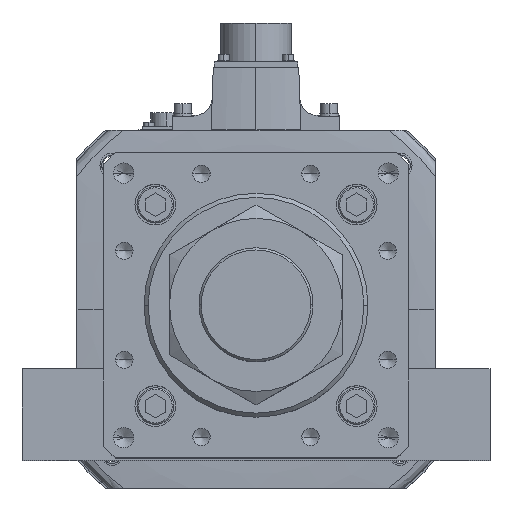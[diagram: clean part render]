
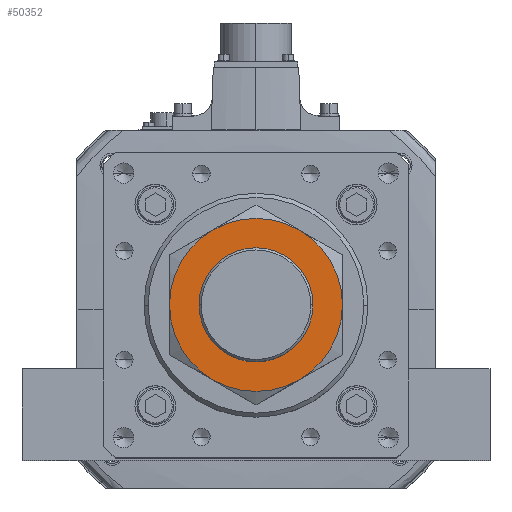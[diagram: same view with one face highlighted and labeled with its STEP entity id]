
A CAD part, top view. The second image highlights one B-rep face of the part: STEP entity #50352.
In plain terms, the highlighted planar face has unit normal (0, 0, 1).
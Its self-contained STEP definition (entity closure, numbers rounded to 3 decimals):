
#1339 = FACE_BOUND ( 'NONE', #45484, .T. ) ;
#3358 = CARTESIAN_POINT ( 'NONE',  ( 0., 0., 34. ) ) ;
#4077 = DIRECTION ( 'NONE',  ( 0., 0., -1. ) ) ;
#4602 = PLANE ( 'NONE',  #51926 ) ;
#4980 = CARTESIAN_POINT ( 'NONE',  ( 21.25, -36.806, 34. ) ) ;
#5135 = DIRECTION ( 'NONE',  ( 0., 0., -1. ) ) ;
#6439 = ORIENTED_EDGE ( 'NONE', *, *, #25329, .F. ) ;
#7823 = CARTESIAN_POINT ( 'NONE',  ( 0., 0., 34. ) ) ;
#8056 = AXIS2_PLACEMENT_3D ( 'NONE', #7823, #34656, #43205 ) ;
#8571 = CIRCLE ( 'NONE', #46370, 42.5 ) ;
#9598 = DIRECTION ( 'NONE',  ( 1., 0., 0. ) ) ;
#10717 = EDGE_CURVE ( 'NONE', #33187, #54882, #48305, .T. ) ;
#12635 = DIRECTION ( 'NONE',  ( 1., 0., 0. ) ) ;
#13040 = DIRECTION ( 'NONE',  ( 1., 0., 0. ) ) ;
#14391 = AXIS2_PLACEMENT_3D ( 'NONE', #35362, #17859, #12635 ) ;
#14409 = DIRECTION ( 'NONE',  ( 0., 0., -1. ) ) ;
#16637 = CIRCLE ( 'NONE', #49663, 28. ) ;
#17334 = DIRECTION ( 'NONE',  ( 1., 0., 0. ) ) ;
#17662 = CARTESIAN_POINT ( 'NONE',  ( -42.5, 0., 34. ) ) ;
#17678 = ORIENTED_EDGE ( 'NONE', *, *, #27622, .F. ) ;
#17859 = DIRECTION ( 'NONE',  ( 0., 0., -1. ) ) ;
#18725 = EDGE_LOOP ( 'NONE', ( #35784, #6439, #50998, #22115, #32984, #17678 ) ) ;
#21677 = DIRECTION ( 'NONE',  ( 0., 0., -1. ) ) ;
#21863 = VERTEX_POINT ( 'NONE', #51144 ) ;
#22012 = AXIS2_PLACEMENT_3D ( 'NONE', #3358, #52158, #43406 ) ;
#22115 = ORIENTED_EDGE ( 'NONE', *, *, #43827, .F. ) ;
#22151 = EDGE_CURVE ( 'NONE', #30136, #47979, #8571, .T. ) ;
#22327 = CARTESIAN_POINT ( 'NONE',  ( 0., 0., 34. ) ) ;
#22779 = DIRECTION ( 'NONE',  ( 1., 0., 0. ) ) ;
#23901 = CARTESIAN_POINT ( 'NONE',  ( -21.25, 36.806, 34. ) ) ;
#25144 = CARTESIAN_POINT ( 'NONE',  ( -28., 0., 34. ) ) ;
#25329 = EDGE_CURVE ( 'NONE', #21863, #33187, #49118, .T. ) ;
#25971 = CARTESIAN_POINT ( 'NONE',  ( 0., 0., 34. ) ) ;
#26306 = DIRECTION ( 'NONE',  ( 0., 0., 1. ) ) ;
#27622 = EDGE_CURVE ( 'NONE', #54882, #30136, #44200, .T. ) ;
#28056 = AXIS2_PLACEMENT_3D ( 'NONE', #25971, #21677, #17334 ) ;
#28580 = CARTESIAN_POINT ( 'NONE',  ( -21.25, -36.806, 34. ) ) ;
#30136 = VERTEX_POINT ( 'NONE', #28580 ) ;
#32984 = ORIENTED_EDGE ( 'NONE', *, *, #22151, .F. ) ;
#33054 = CIRCLE ( 'NONE', #22012, 28. ) ;
#33187 = VERTEX_POINT ( 'NONE', #45427 ) ;
#34656 = DIRECTION ( 'NONE',  ( 0., 0., -1. ) ) ;
#35362 = CARTESIAN_POINT ( 'NONE',  ( 0., 0., 34. ) ) ;
#35784 = ORIENTED_EDGE ( 'NONE', *, *, #10717, .F. ) ;
#37904 = ORIENTED_EDGE ( 'NONE', *, *, #46018, .F. ) ;
#38625 = EDGE_CURVE ( 'NONE', #50018, #40458, #16637, .T. ) ;
#38769 = CIRCLE ( 'NONE', #14391, 42.5 ) ;
#39653 = CARTESIAN_POINT ( 'NONE',  ( 0., 0., 34. ) ) ;
#40458 = VERTEX_POINT ( 'NONE', #40809 ) ;
#40809 = CARTESIAN_POINT ( 'NONE',  ( 28., 0., 34. ) ) ;
#42452 = ORIENTED_EDGE ( 'NONE', *, *, #38625, .F. ) ;
#42851 = EDGE_CURVE ( 'NONE', #56159, #21863, #38769, .T. ) ;
#43205 = DIRECTION ( 'NONE',  ( -1., 0., 0. ) ) ;
#43406 = DIRECTION ( 'NONE',  ( 1., 0., 0. ) ) ;
#43827 = EDGE_CURVE ( 'NONE', #47979, #56159, #45706, .T. ) ;
#44200 = CIRCLE ( 'NONE', #28056, 42.5 ) ;
#44677 = CARTESIAN_POINT ( 'NONE',  ( 0., 0., 34. ) ) ;
#44933 = DIRECTION ( 'NONE',  ( 1., 0., 0. ) ) ;
#45427 = CARTESIAN_POINT ( 'NONE',  ( 42.5, 0., 34. ) ) ;
#45484 = EDGE_LOOP ( 'NONE', ( #42452, #37904 ) ) ;
#45706 = CIRCLE ( 'NONE', #8056, 42.5 ) ;
#46018 = EDGE_CURVE ( 'NONE', #40458, #50018, #33054, .T. ) ;
#46370 = AXIS2_PLACEMENT_3D ( 'NONE', #53705, #14409, #44933 ) ;
#47979 = VERTEX_POINT ( 'NONE', #17662 ) ;
#48305 = CIRCLE ( 'NONE', #56316, 42.5 ) ;
#49118 = CIRCLE ( 'NONE', #52057, 42.5 ) ;
#49154 = DIRECTION ( 'NONE',  ( 0., 0., 1. ) ) ;
#49663 = AXIS2_PLACEMENT_3D ( 'NONE', #56758, #26306, #57511 ) ;
#50018 = VERTEX_POINT ( 'NONE', #25144 ) ;
#50352 = ADVANCED_FACE ( 'NONE', ( #51433, #1339 ), #4602, .T. ) ;
#50998 = ORIENTED_EDGE ( 'NONE', *, *, #42851, .F. ) ;
#51144 = CARTESIAN_POINT ( 'NONE',  ( 21.25, 36.806, 34. ) ) ;
#51433 = FACE_OUTER_BOUND ( 'NONE', #18725, .T. ) ;
#51926 = AXIS2_PLACEMENT_3D ( 'NONE', #44677, #49154, #22779 ) ;
#52057 = AXIS2_PLACEMENT_3D ( 'NONE', #39653, #4077, #13040 ) ;
#52158 = DIRECTION ( 'NONE',  ( 0., 0., 1. ) ) ;
#53705 = CARTESIAN_POINT ( 'NONE',  ( 0., 0., 34. ) ) ;
#54882 = VERTEX_POINT ( 'NONE', #4980 ) ;
#56159 = VERTEX_POINT ( 'NONE', #23901 ) ;
#56316 = AXIS2_PLACEMENT_3D ( 'NONE', #22327, #5135, #9598 ) ;
#56758 = CARTESIAN_POINT ( 'NONE',  ( 0., 0., 34. ) ) ;
#57511 = DIRECTION ( 'NONE',  ( 1., 0., 0. ) ) ;
